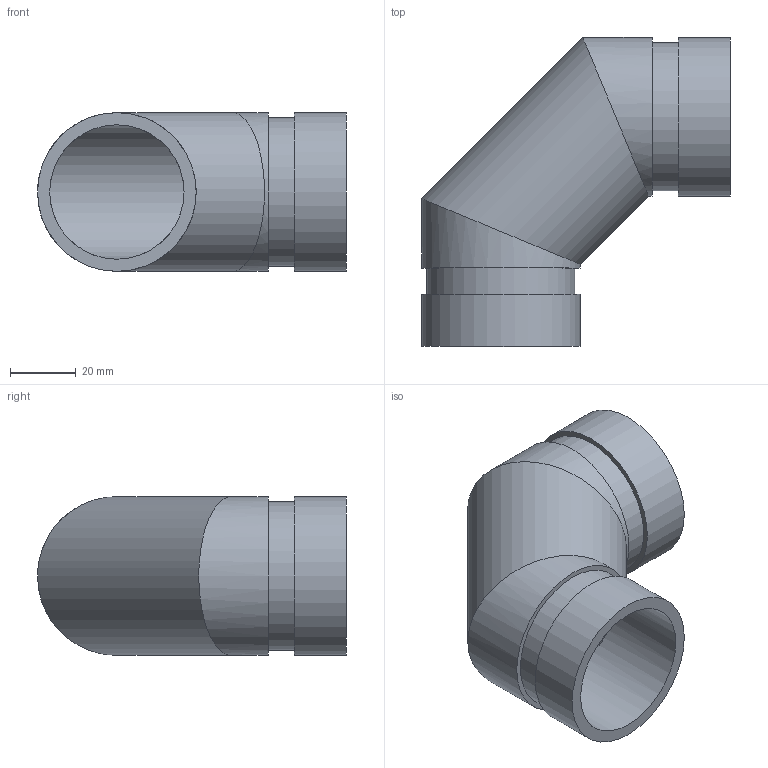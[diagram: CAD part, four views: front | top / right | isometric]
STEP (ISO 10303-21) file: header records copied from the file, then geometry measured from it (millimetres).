
FILE_DESCRIPTION(/* description */ ('VIC 90 DEG ELBOW FABRICATED No 10 SWS (OGS)','CAx-IF Rec.Pracs.---Representation and Presentation of Product Manufacturing Information (PMI)---4.0---2014-10-13'),/* implementation_level */ '2;1');
FILE_NAME(/* name */ 'C:\Users\kkamble\AppData\Roaming\Autodesk\ApplicationPlugins\Back Up\Victaulic_IPS_Elbow 90 Deg_No 10 SWS (OGS)\Victaulic_IPS_Elbow 90 Deg_No 10 SWS (OGS)_1.5 (40).stp',/* time_stamp */ '2020-09-16T22:17:21+06:00',/* author */ ('cgray'),/* organization */ ('Victaulic'),/* preprocessor_version */ 'ST-DEVELOPER v17.2',/* originating_system */ 'Autodesk Inventor 2019',/* authorisation */ '');
FILE_SCHEMA (('AP242_MANAGED_MODEL_BASED_3D_ENGINEERING_MIM_LF { 1 0 10303 442 1 1 4 }'));
Length unit declared in the file: inch
Products named in the file (1): 10 SWS-01.5
Bounding box: 93.98 x 93.98 x 48.26 mm (x, y, z)
Volume: 57800.9 mm3; surface area: 35201.8 mm2
Topology: 1 solids, 1 shells, 16 faces, 38 edges, 28 vertices
Faces by surface type: cylinder 10, plane 6
Full cylindrical faces by diameter (mm): 40.894 x3, 45.085 x2, 48.26 x5
Entity records: 646 total; most frequent: DIRECTION 126, CARTESIAN_POINT 100, ORIENTED_EDGE 76, AXIS2_PLACEMENT_3D 58, EDGE_CURVE 38, VERTEX_POINT 28, EDGE_LOOP 22, STYLED_ITEM 18
